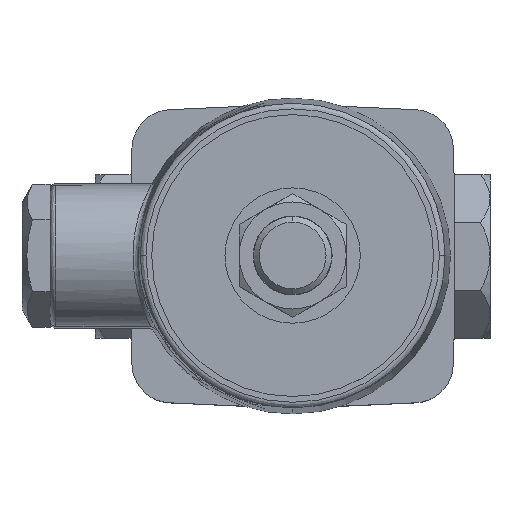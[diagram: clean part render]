
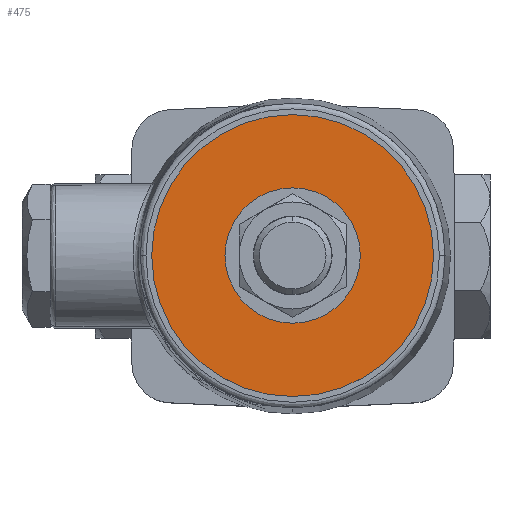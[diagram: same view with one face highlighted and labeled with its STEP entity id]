
A CAD part, top view. The second image highlights one B-rep face of the part: STEP entity #475.
In plain terms, the highlighted planar face has unit normal (0, 0, 1) as drawn and (0, -1, 0) by its records, which use the part's own axes.
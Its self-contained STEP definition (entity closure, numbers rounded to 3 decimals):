
#475=ADVANCED_FACE('',(#3410,#3411),#3409,.F.);
#3409=PLANE('',#6593);
#3410=FACE_OUTER_BOUND('',#6594,.T.);
#3411=FACE_BOUND('',#6595,.T.);
#6590=CARTESIAN_POINT('',(-51.962,3.6,-32.5));
#6591=DIRECTION('',(0.,1.,0.));
#6592=DIRECTION('',(0.,0.,1.));
#6593=AXIS2_PLACEMENT_3D('',#6590,#6591,#6592);
#6594=EDGE_LOOP('',(#8091,#8092));
#6595=EDGE_LOOP('',(#8093,#8094));
#8091=ORIENTED_EDGE('',*,*,#8873,.T.);
#8092=ORIENTED_EDGE('',*,*,#8874,.T.);
#8093=ORIENTED_EDGE('',*,*,#8875,.F.);
#8094=ORIENTED_EDGE('',*,*,#8876,.F.);
#8873=EDGE_CURVE('',#13572,#13573,#13574,.T.);
#8874=EDGE_CURVE('',#13573,#13572,#13580,.T.);
#8875=EDGE_CURVE('',#13586,#13587,#13588,.T.);
#8876=EDGE_CURVE('',#13587,#13586,#13594,.T.);
#13572=VERTEX_POINT('',#17444);
#13573=VERTEX_POINT('',#17445);
#13574=CIRCLE('',#17449,25.);
#13580=CIRCLE('',#17453,25.);
#13586=VERTEX_POINT('',#17454);
#13587=VERTEX_POINT('',#17455);
#13588=CIRCLE('',#17459,12.);
#13594=CIRCLE('',#17463,12.);
#17444=CARTESIAN_POINT('',(0.,3.6,-25.));
#17445=CARTESIAN_POINT('',(0.,3.6,25.));
#17446=CARTESIAN_POINT('',(0.,3.6,0.));
#17447=DIRECTION('',(0.,-1.,0.));
#17448=DIRECTION('',(0.,0.,-1.));
#17449=AXIS2_PLACEMENT_3D('',#17446,#17447,#17448);
#17450=CARTESIAN_POINT('',(0.,3.6,0.));
#17451=DIRECTION('',(0.,-1.,0.));
#17452=DIRECTION('',(0.,0.,-1.));
#17453=AXIS2_PLACEMENT_3D('',#17450,#17451,#17452);
#17454=CARTESIAN_POINT('',(0.,3.6,12.));
#17455=CARTESIAN_POINT('',(0.,3.6,-12.));
#17456=CARTESIAN_POINT('',(0.,3.6,0.));
#17457=DIRECTION('',(0.,-1.,0.));
#17458=DIRECTION('',(0.,0.,-1.));
#17459=AXIS2_PLACEMENT_3D('',#17456,#17457,#17458);
#17460=CARTESIAN_POINT('',(0.,3.6,0.));
#17461=DIRECTION('',(0.,-1.,0.));
#17462=DIRECTION('',(0.,0.,-1.));
#17463=AXIS2_PLACEMENT_3D('',#17460,#17461,#17462);
